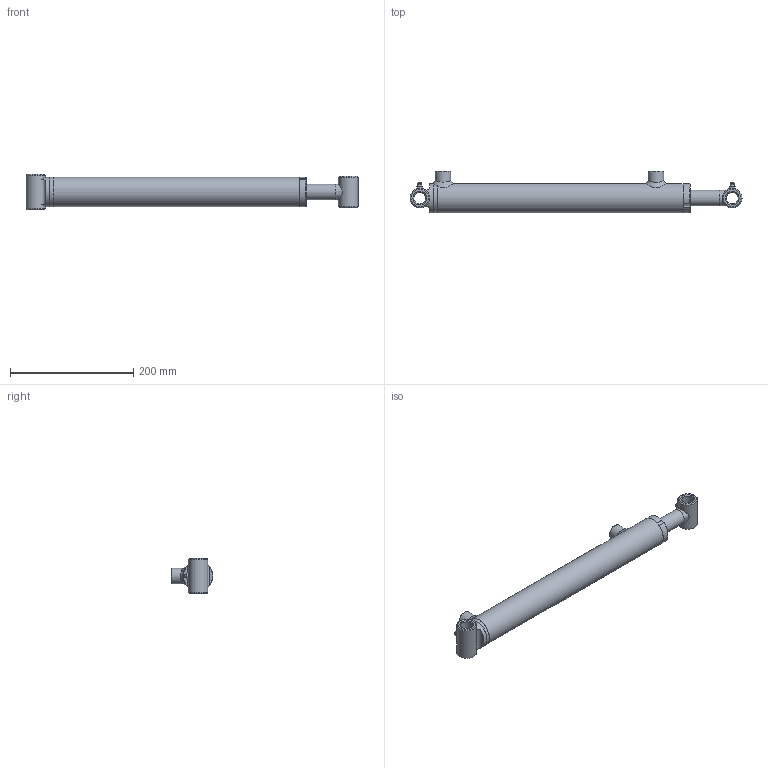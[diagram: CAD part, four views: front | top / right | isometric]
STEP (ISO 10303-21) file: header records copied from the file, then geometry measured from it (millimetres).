
FILE_DESCRIPTION(/* description */ (''),/* implementation_level */ '2;1');
FILE_NAME(/* name */ 'C:\01 - Philip\00 - Philip Rivard\01 - Contracts\Eagle Hydraulic Components\00 - 3D Cylinder\01 - Standard\HBU\HBU15XX\STEP Files\HBU1512.stp',/* time_stamp */ '2015-05-06T16:19:09-04:00',/* author */ ('Philip'),/* organization */ (''),/* preprocessor_version */ 'ST-DEVELOPER v16.1',/* originating_system */ 'Autodesk Inventor 2016',/* authorisation */ '');
FILE_SCHEMA (('AUTOMOTIVE_DESIGN { 1 0 10303 214 3 1 1 }'));
Length unit declared in the file: inch
Products named in the file (12): Tube_HBU_Welds; Tube; Straight_Port; ECP-15-HBU; Tube_HBU; Gland; Rod_HBU_Welds; Rod; Bushing; Rod_HBU; Grease Fitting 1-8; Cylinder_Assembly
Assembly tree (13 placements, depth 3):
  Cylinder_Assembly
    Tube_HBU
      Tube_HBU_Welds
      Tube
      Straight_Port  x2
      ECP-15-HBU
    Gland
    Rod_HBU
      Rod_HBU_Welds
      Rod
      Bushing
    Grease Fitting 1-8  x2
Bounding box: 539.75 x 67.62 x 57.2 mm (x, y, z)
Volume: 614958.2 mm3; surface area: 197274 mm2
Topology: 12 solids, 12 shells, 206 faces, 458 edges, 279 vertices
Faces by surface type: cone 65, plane 59, cylinder 53, torus 15, bspline 12, sphere 2
Full cylindrical faces by diameter (mm): 4 x2, 5 x1, 7.5 x2, 8 x2, 10 x2, 12.751 x2, 19.05 x2, 19.3 x2, 19.65 x1, 19.9 x1, 22 x1, 25 x4, 25.4 x2, 31.75 x2, 31.8 x1, 35 x1, 37.897 x1, 38.05 x1, 38.1 x1, 40 x1, 42 x2, 43 x1, 47.6 x1, 47.625 x1
Entity records: 6379 total; most frequent: CARTESIAN_POINT 2986, DIRECTION 666, ORIENTED_EDGE 538, AXIS2_PLACEMENT_3D 305, EDGE_LOOP 276, EDGE_CURVE 269, VERTEX_POINT 205, ADVANCED_FACE 166
